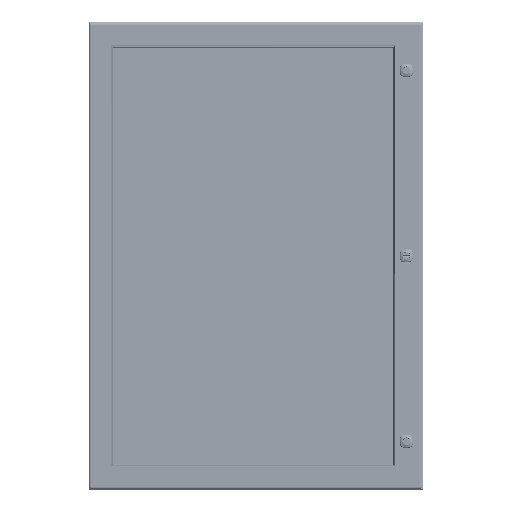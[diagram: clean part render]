
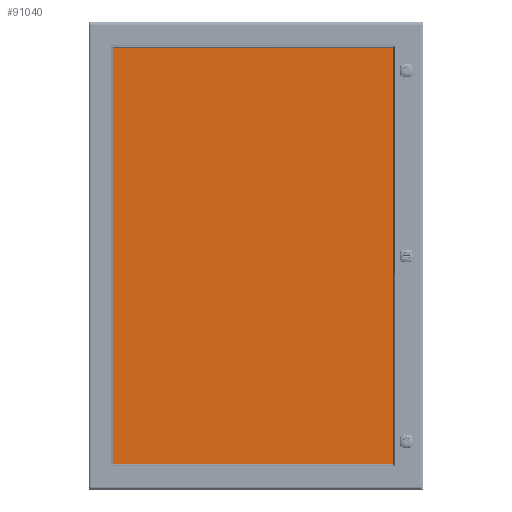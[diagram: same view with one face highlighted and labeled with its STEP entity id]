
A CAD part, top view. The second image highlights one B-rep face of the part: STEP entity #91040.
In plain terms, the highlighted planar face has unit normal (0, 0, 1).
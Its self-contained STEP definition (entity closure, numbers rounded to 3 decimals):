
#10195=LINE('',#154463,#16567);
#10201=LINE('',#154483,#16573);
#10204=LINE('',#154491,#16576);
#10206=LINE('',#154497,#16578);
#16567=VECTOR('',#111121,0.394);
#16573=VECTOR('',#111141,0.394);
#16576=VECTOR('',#111150,0.394);
#16578=VECTOR('',#111158,0.394);
#24173=FACE_OUTER_BOUND('',#29683,.T.);
#29683=EDGE_LOOP('',(#70395,#70396,#70397,#70398,#70399,#70400,#70401,#70402));
#34406=CIRCLE('',#98428,0.25);
#34411=CIRCLE('',#98436,0.25);
#34412=CIRCLE('',#98439,0.25);
#34413=CIRCLE('',#98442,0.25);
#39552=VERTEX_POINT('',#154450);
#39553=VERTEX_POINT('',#154451);
#39557=VERTEX_POINT('',#154461);
#39563=VERTEX_POINT('',#154477);
#39564=VERTEX_POINT('',#154481);
#39565=VERTEX_POINT('',#154485);
#39566=VERTEX_POINT('',#154489);
#39567=VERTEX_POINT('',#154493);
#50564=EDGE_CURVE('',#39552,#39553,#34406,.T.);
#50570=EDGE_CURVE('',#39557,#39552,#10195,.T.);
#50577=EDGE_CURVE('',#39563,#39557,#34411,.T.);
#50580=EDGE_CURVE('',#39564,#39563,#10201,.T.);
#50581=EDGE_CURVE('',#39565,#39564,#34412,.T.);
#50584=EDGE_CURVE('',#39566,#39565,#10204,.T.);
#50585=EDGE_CURVE('',#39567,#39566,#34413,.T.);
#50587=EDGE_CURVE('',#39553,#39567,#10206,.T.);
#70395=ORIENTED_EDGE('',*,*,#50564,.F.);
#70396=ORIENTED_EDGE('',*,*,#50570,.F.);
#70397=ORIENTED_EDGE('',*,*,#50577,.F.);
#70398=ORIENTED_EDGE('',*,*,#50580,.F.);
#70399=ORIENTED_EDGE('',*,*,#50581,.F.);
#70400=ORIENTED_EDGE('',*,*,#50584,.F.);
#70401=ORIENTED_EDGE('',*,*,#50585,.F.);
#70402=ORIENTED_EDGE('',*,*,#50587,.F.);
#87414=PLANE('',#98444);
#91040=ADVANCED_FACE('',(#24173),#87414,.T.);
#98428=AXIS2_PLACEMENT_3D('',#154452,#111111,#111112);
#98436=AXIS2_PLACEMENT_3D('',#154478,#111135,#111136);
#98439=AXIS2_PLACEMENT_3D('',#154486,#111144,#111145);
#98442=AXIS2_PLACEMENT_3D('',#154494,#111153,#111154);
#98444=AXIS2_PLACEMENT_3D('',#154498,#111159,#111160);
#111111=DIRECTION('center_axis',(0.,0.,-1.));
#111112=DIRECTION('ref_axis',(-0.707,-0.707,0.));
#111121=DIRECTION('',(-1.,0.,0.));
#111135=DIRECTION('center_axis',(0.,0.,-1.));
#111136=DIRECTION('ref_axis',(0.707,-0.707,0.));
#111141=DIRECTION('',(0.,-1.,0.));
#111144=DIRECTION('center_axis',(0.,0.,-1.));
#111145=DIRECTION('ref_axis',(0.707,0.707,0.));
#111150=DIRECTION('',(1.,0.,0.));
#111153=DIRECTION('center_axis',(0.,0.,-1.));
#111154=DIRECTION('ref_axis',(-0.707,0.707,0.));
#111158=DIRECTION('',(0.,1.,0.));
#111159=DIRECTION('center_axis',(0.,0.,1.));
#111160=DIRECTION('ref_axis',(1.,0.,0.));
#154450=CARTESIAN_POINT('',(-12.813,-19.188,0.25));
#154451=CARTESIAN_POINT('',(-13.063,-18.938,0.25));
#154452=CARTESIAN_POINT('Origin',(-12.813,-18.938,0.25));
#154461=CARTESIAN_POINT('',(12.813,-19.188,0.25));
#154463=CARTESIAN_POINT('',(-13.063,-19.188,0.25));
#154477=CARTESIAN_POINT('',(13.063,-18.938,0.25));
#154478=CARTESIAN_POINT('Origin',(12.813,-18.938,0.25));
#154481=CARTESIAN_POINT('',(13.063,18.938,0.25));
#154483=CARTESIAN_POINT('',(13.063,-19.188,0.25));
#154485=CARTESIAN_POINT('',(12.813,19.188,0.25));
#154486=CARTESIAN_POINT('Origin',(12.813,18.938,0.25));
#154489=CARTESIAN_POINT('',(-12.813,19.188,0.25));
#154491=CARTESIAN_POINT('',(13.063,19.188,0.25));
#154493=CARTESIAN_POINT('',(-13.063,18.938,0.25));
#154494=CARTESIAN_POINT('Origin',(-12.813,18.938,0.25));
#154497=CARTESIAN_POINT('',(-13.063,19.188,0.25));
#154498=CARTESIAN_POINT('Origin',(0.,0.,
0.25));
